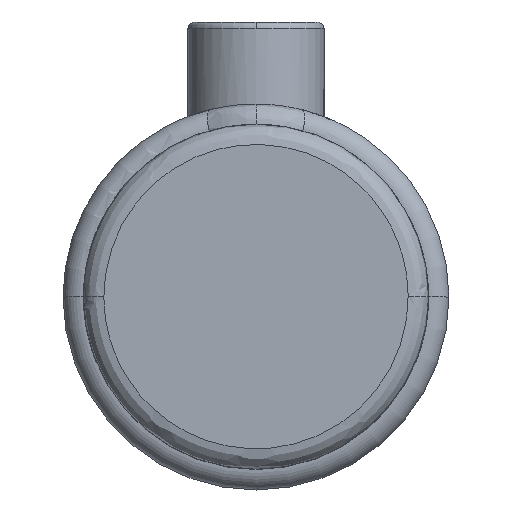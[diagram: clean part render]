
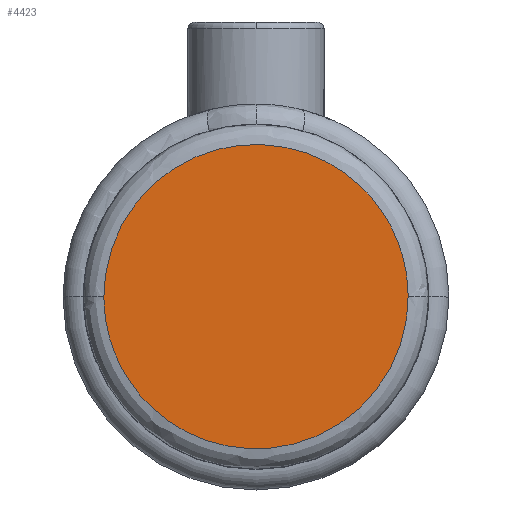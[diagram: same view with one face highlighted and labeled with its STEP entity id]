
A CAD part, top view. The second image highlights one B-rep face of the part: STEP entity #4423.
In plain terms, the highlighted planar face has unit normal (0, 0, 1).
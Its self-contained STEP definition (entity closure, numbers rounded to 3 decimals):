
#39 = PLANE ( 'NONE',  #6851 ) ;
#125 = ORIENTED_EDGE ( 'NONE', *, *, #4652, .F. ) ;
#695 = DIRECTION ( 'NONE',  ( 0., -1., 0. ) ) ;
#929 = EDGE_LOOP ( 'NONE', ( #3340, #125 ) ) ;
#1043 = VERTEX_POINT ( 'NONE', #5922 ) ;
#1150 = CARTESIAN_POINT ( 'NONE',  ( 22.35, 44.7, 38. ) ) ;
#1643 = EDGE_CURVE ( 'NONE', #1043, #5736, #3844, .T. ) ;
#1784 = CARTESIAN_POINT ( 'NONE',  ( -22.35, 44.7, 38. ) ) ;
#2509 = CARTESIAN_POINT ( 'NONE',  ( -22.35, 0., 38. ) ) ;
#3340 = ORIENTED_EDGE ( 'NONE', *, *, #1643, .F. ) ;
#3844 =( BOUNDED_CURVE ( )  B_SPLINE_CURVE ( 3, ( #4372, #5018, #6543, #4054 ),
 .UNSPECIFIED., .F., .F. ) 
 B_SPLINE_CURVE_WITH_KNOTS ( ( 4, 4 ),
 ( 0.25, 0.75 ),
 .UNSPECIFIED. ) 
 CURVE ( )  GEOMETRIC_REPRESENTATION_ITEM ( )  RATIONAL_B_SPLINE_CURVE ( ( 1., 0.333, 0.333, 1. ) ) 
 REPRESENTATION_ITEM ( '' )  );
#4054 = CARTESIAN_POINT ( 'NONE',  ( -22.35, 0., 38. ) ) ;
#4372 = CARTESIAN_POINT ( 'NONE',  ( 22.35, 0., 38. ) ) ;
#4423 = ADVANCED_FACE ( 'NONE', ( #4624 ), #39, .T. ) ;
#4624 = FACE_OUTER_BOUND ( 'NONE', #929, .T. ) ;
#4652 = EDGE_CURVE ( 'NONE', #5736, #1043, #6106, .T. ) ;
#5018 = CARTESIAN_POINT ( 'NONE',  ( 22.35, -44.7, 38. ) ) ;
#5646 = CARTESIAN_POINT ( 'NONE',  ( 22.35, 0., 38. ) ) ;
#5736 = VERTEX_POINT ( 'NONE', #2509 ) ;
#5922 = CARTESIAN_POINT ( 'NONE',  ( 22.35, 0., 38. ) ) ;
#6106 =( BOUNDED_CURVE ( )  B_SPLINE_CURVE ( 3, ( #6255, #1784, #1150, #5646 ),
 .UNSPECIFIED., .F., .T. ) 
 B_SPLINE_CURVE_WITH_KNOTS ( ( 4, 4 ),
 ( 0.75, 1.25 ),
 .UNSPECIFIED. ) 
 CURVE ( )  GEOMETRIC_REPRESENTATION_ITEM ( )  RATIONAL_B_SPLINE_CURVE ( ( 1., 0.333, 0.333, 1. ) ) 
 REPRESENTATION_ITEM ( '' )  );
#6255 = CARTESIAN_POINT ( 'NONE',  ( -22.35, 0., 38. ) ) ;
#6543 = CARTESIAN_POINT ( 'NONE',  ( -22.35, -44.7, 38. ) ) ;
#6851 = AXIS2_PLACEMENT_3D ( 'NONE', #7636, #7138, #695 ) ;
#7138 = DIRECTION ( 'NONE',  ( 0., 0., 1. ) ) ;
#7636 = CARTESIAN_POINT ( 'NONE',  ( 0., 12.675, 38. ) ) ;
